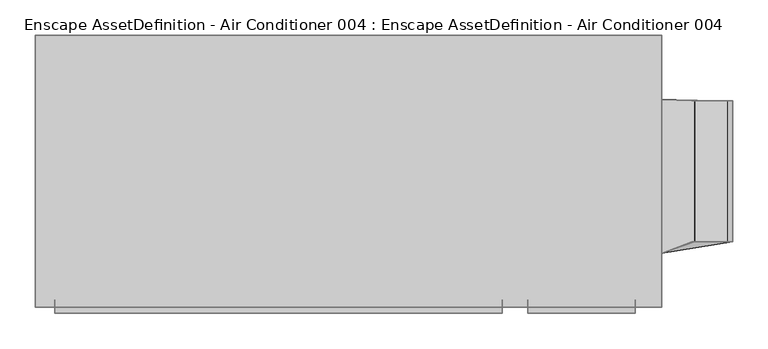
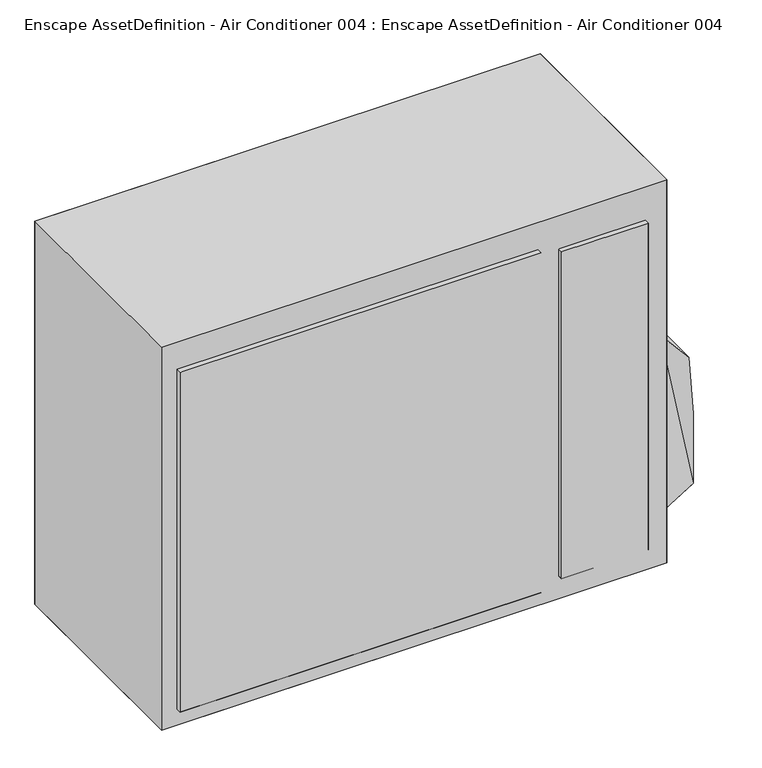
"""IFC4 building model written with IfcOpenShell, lengths in millimetres: geographic element geometry, Enscape AssetDefinition - Air Conditioner 004 : Enscape AssetDefinition - Air Conditioner 004."""

from ifc_helpers import new_model, si_unit, origin, place, context, project, spatial, triangles, source, transform, mapped, element, save


def enscape_assetdefinition_air_conditioner_004_enscape_9204168d(model_context):
    return source(origin(), model_context, "Body", "Tessellation", [
        triangles([(476.5979439, 231.73769, 6.3372154), (-413.8559524, -154.6593098, 719.4677851), (-413.8559524, -154.6593098, 6.3372154), (-413.8559524, 231.73769, 6.3372154), (476.5979439, -154.6593098, 6.3372154), (476.5979439, -154.6593098, 719.4677851), (476.5979439, 231.73769, 719.4677851), (-413.8559524, 231.73769, 719.4677851), (249.9242798, -163.5943203, 668.4900827), (-386.2733336, -163.5943203, 35.544199), (-386.2733336, -144.3877983, 668.4900827), (-386.2733336, -144.3877983, 35.544199), (249.9242798, -163.5943203, 35.544199), (249.9242798, -144.3877983, 35.544199), (249.9242798, -144.3877983, 668.4900827), (-386.2733336, -163.5943203, 668.4900827), (286.1204171, -163.5943203, 657.1412842), (439.0702563, -163.5943203, 48.6212555), (286.1204171, -144.3877983, 48.6212555), (286.1204171, -163.5943203, 48.6212555), (286.1204171, -144.3877983, 657.1412842), (439.0702563, -163.5943203, 657.1412842), (439.0702563, -144.3877983, 48.6212555), (439.0702563, -144.3877983, 657.1412842), (577.4275088, 138.3938509, 192.2542352), (569.4678929, 138.3938509, 300.1699229), (577.4275088, -61.5598189, 192.2542352), (569.4678929, -61.5598189, 300.1699229), (577.4166447, -61.5598189, 63.00909), (476.35261, -77.9479402, 19.6932452), (577.4166447, 138.3938509, 63.00909), (476.35261, 140.3318231, 349.1433689), (476.35261, 140.3318231, 19.6932452), (518.9076797, 138.3938509, 358.1901641), (518.9076797, -61.5598189, 358.1901641), (523.1209399, 138.3938509, 625.2840717), (476.35261, 140.3318231, 645.6717081), (523.1209399, -61.5598189, 625.2840717), (476.35261, -77.9479402, 645.6717081), (476.35261, -77.9479402, 349.1433689)], [[38, 39, 40], [37, 39, 38], [38, 36, 37], [35, 40, 30], [36, 38, 35], [40, 35, 38], [34, 32, 37], [37, 36, 34], [35, 34, 36], [31, 33, 32], [32, 34, 31], [30, 33, 31], [30, 29, 35], [31, 29, 30], [35, 29, 27], [27, 28, 35], [34, 35, 28], [28, 26, 34], [31, 34, 26], [26, 25, 31], [25, 27, 29], [29, 31, 25], [28, 27, 25], [25, 26, 28], [24, 21, 17], [17, 22, 24], [23, 24, 22], [22, 18, 23], [19, 23, 18], [20, 17, 21], [21, 19, 20], [18, 20, 19], [22, 17, 20], [20, 18, 22], [15, 11, 16], [16, 9, 15], [14, 15, 9], [9, 13, 14], [12, 14, 13], [10, 16, 11], [11, 12, 10], [13, 10, 12], [9, 16, 10], [10, 13, 9], [7, 8, 2], [2, 6, 7], [7, 6, 5], [8, 7, 1], [5, 1, 7], [2, 8, 4], [1, 4, 8], [4, 3, 2], [6, 2, 3], [3, 5, 6], [1, 5, 3], [3, 4, 1]], closed=False),
    ])


if __name__ == "__main__":
    model = new_model("IFC4")
    model_context = context("Model", 3, world=origin())
    ifc_project = project(units=[si_unit("LENGTHUNIT", "METRE", prefix="MILLI")], contexts=[model_context])
    site = spatial("IfcSite", under=ifc_project)
    building = spatial("IfcBuilding", under=site)
    placement = place(None, origin())
    enscape_assetdefinition_air_conditioner_004_enscape_shape = enscape_assetdefinition_air_conditioner_004_enscape_9204168d(model_context)
    element("IfcGeographicElement", 1, ObjectType="Enscape AssetDefinition - Air Conditioner 004 : Enscape AssetDefinition - Air Conditioner 004", at=placement, inside=building, context=model_context, shape_type="MappedRepresentation", body=[
        mapped(enscape_assetdefinition_air_conditioner_004_enscape_shape, transform((0.0, 0.0, 0.0), x_axis=(1.0, 0.0, 0.0), y_axis=(0.0, 1.0, 0.0), z_axis=(0.0, 0.0, 1.0))),
    ])
    save(model, "model.ifc")
